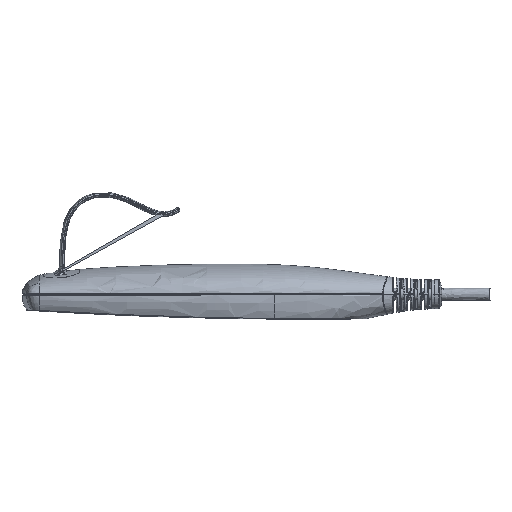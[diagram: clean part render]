
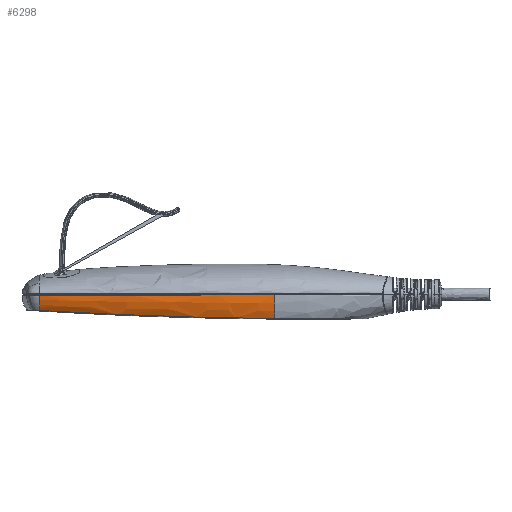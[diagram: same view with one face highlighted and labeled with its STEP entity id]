
A CAD part, left-side view. The second image highlights one B-rep face of the part: STEP entity #6298.
In plain terms, the highlighted free-form (B-spline) face has degree [3, 3] with [15, 4] control points.
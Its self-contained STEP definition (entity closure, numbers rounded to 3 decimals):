
#90=B_SPLINE_SURFACE_WITH_KNOTS('',3,3,((#52498,#52499,#52500,#52501),(#52502,
#52503,#52504,#52505),(#52506,#52507,#52508,#52509),(#52510,#52511,#52512,
#52513),(#52514,#52515,#52516,#52517),(#52518,#52519,#52520,#52521),(#52522,
#52523,#52524,#52525),(#52526,#52527,#52528,#52529),(#52530,#52531,#52532,
#52533),(#52534,#52535,#52536,#52537),(#52538,#52539,#52540,#52541),(#52542,
#52543,#52544,#52545),(#52546,#52547,#52548,#52549),(#52550,#52551,#52552,
#52553),(#52554,#52555,#52556,#52557)),.UNSPECIFIED.,.F.,.F.,.F.,(4,1,1,
1,1,2,1,1,1,2,4),(4,4),(0.,0.143,0.201,0.229,
0.374,0.56,0.711,0.747,
0.807,0.934,1.),(0.036,0.982),
 .UNSPECIFIED.);
#6298=ADVANCED_FACE('',(#6781),#90,.T.);
#6781=FACE_OUTER_BOUND('',#7271,.T.);
#7271=EDGE_LOOP('',(#8152,#8153,#8154,#8155));
#8152=ORIENTED_EDGE('',*,*,#13668,.T.);
#8153=ORIENTED_EDGE('',*,*,#13669,.T.);
#8154=ORIENTED_EDGE('',*,*,#13670,.T.);
#8155=ORIENTED_EDGE('',*,*,#13671,.T.);
#9531=PCURVE('',#90,#10910);
#9532=PCURVE('',#90,#10911);
#9533=PCURVE('',#90,#10912);
#9534=PCURVE('',#90,#10913);
#10910=DEFINITIONAL_REPRESENTATION('',(#15395),#97672);
#10911=DEFINITIONAL_REPRESENTATION('',(#15397),#97672);
#10912=DEFINITIONAL_REPRESENTATION('',(#15399),#97672);
#10913=DEFINITIONAL_REPRESENTATION('',(#15401),#97672);
#12289=SURFACE_CURVE('',#15394,(#9531),.PCURVE_S1.);
#12290=SURFACE_CURVE('',#15396,(#9532),.PCURVE_S1.);
#12291=SURFACE_CURVE('',#15398,(#9533),.PCURVE_S1.);
#12292=SURFACE_CURVE('',#15400,(#9534),.PCURVE_S1.);
#13668=EDGE_CURVE('',#17203,#17206,#12289,.T.);
#13669=EDGE_CURVE('',#17206,#17205,#12290,.T.);
#13670=EDGE_CURVE('',#17205,#17204,#12291,.T.);
#13671=EDGE_CURVE('',#17204,#17203,#12292,.T.);
#15394=B_SPLINE_CURVE_WITH_KNOTS('',3,(#52562,#52563,#52564,#52565,#52566,
#52567),.UNSPECIFIED.,.F.,.F.,(4,2,4),(0.,0.5,1.),
 .UNSPECIFIED.);
#15395=B_SPLINE_CURVE_WITH_KNOTS('',2,(#52568,#52569,#52570,#52571,#52572),
 .UNSPECIFIED.,.F.,.F.,(3,2,3),(0.,0.5,1.),.UNSPECIFIED.);
#15396=B_SPLINE_CURVE_WITH_KNOTS('',3,(#52573,#52574,#52575,#52576),
 .UNSPECIFIED.,.F.,.F.,(4,4),(1.,2.),.UNSPECIFIED.);
#15397=B_SPLINE_CURVE_WITH_KNOTS('',2,(#52577,#52578,#52579),
 .UNSPECIFIED.,.F.,.F.,(3,3),(1.,2.),.UNSPECIFIED.);
#15398=B_SPLINE_CURVE_WITH_KNOTS('',3,(#52580,#52581,#52582,#52583,#52584,
#52585,#52586,#52587),.UNSPECIFIED.,.F.,.F.,(4,2,2,4),(2.,2.496,
2.75,3.),.UNSPECIFIED.);
#15399=B_SPLINE_CURVE_WITH_KNOTS('',2,(#52588,#52589,#52590,#52591,#52592,
#52593,#52594,#52595,#52596,#52597,#52598),.UNSPECIFIED.,.F.,.F.,(3,2,2,
2,2,3),(2.,2.125,2.25,2.5,2.75,3.),.UNSPECIFIED.);
#15400=B_SPLINE_CURVE_WITH_KNOTS('',3,(#52599,#52600,#52601,#52602),
 .UNSPECIFIED.,.F.,.F.,(4,4),(3.,4.),.UNSPECIFIED.);
#15401=B_SPLINE_CURVE_WITH_KNOTS('',2,(#52603,#52604,#52605),
 .UNSPECIFIED.,.F.,.F.,(3,3),(3.,4.),.UNSPECIFIED.);
#17203=VERTEX_POINT('',#52558);
#17204=VERTEX_POINT('',#52559);
#17205=VERTEX_POINT('',#52560);
#17206=VERTEX_POINT('',#52561);
#52498=CARTESIAN_POINT('',(-56.047,115.378,-6.776));
#52499=CARTESIAN_POINT('',(-57.314,115.378,-4.791));
#52500=CARTESIAN_POINT('',(-58.,115.378,-2.489));
#52501=CARTESIAN_POINT('',(-58.025,115.378,-0.133));
#52502=CARTESIAN_POINT('',(-56.505,110.746,-7.05));
#52503=CARTESIAN_POINT('',(-57.749,110.75,-4.973));
#52504=CARTESIAN_POINT('',(-58.409,110.755,-2.582));
#52505=CARTESIAN_POINT('',(-58.408,110.759,-0.138));
#52506=CARTESIAN_POINT('',(-57.051,104.256,-7.41));
#52507=CARTESIAN_POINT('',(-58.278,104.264,-5.211));
#52508=CARTESIAN_POINT('',(-58.918,104.273,-2.704));
#52509=CARTESIAN_POINT('',(-58.895,104.281,-0.144));
#52510=CARTESIAN_POINT('',(-57.531,96.833,-7.783));
#52511=CARTESIAN_POINT('',(-58.756,96.844,-5.457));
#52512=CARTESIAN_POINT('',(-59.39,96.856,-2.83));
#52513=CARTESIAN_POINT('',(-59.359,96.868,-0.151));
#52514=CARTESIAN_POINT('',(-57.953,89.37,-8.141));
#52515=CARTESIAN_POINT('',(-59.181,89.387,-5.694));
#52516=CARTESIAN_POINT('',(-59.814,89.403,-2.951));
#52517=CARTESIAN_POINT('',(-59.782,89.42,-0.157));
#52518=CARTESIAN_POINT('',(-58.423,77.704,-8.649));
#52519=CARTESIAN_POINT('',(-59.671,77.73,-6.028));
#52520=CARTESIAN_POINT('',(-60.318,77.756,-3.122));
#52521=CARTESIAN_POINT('',(-60.297,77.783,-0.166));
#52522=CARTESIAN_POINT('',(-58.523,66.951,-9.023));
#52523=CARTESIAN_POINT('',(-59.798,66.985,-6.274));
#52524=CARTESIAN_POINT('',(-60.466,67.018,-3.247));
#52525=CARTESIAN_POINT('',(-60.465,67.052,-0.173));
#52526=CARTESIAN_POINT('',(-58.378,55.986,-9.352));
#52527=CARTESIAN_POINT('',(-59.68,56.026,-6.488));
#52528=CARTESIAN_POINT('',(-60.369,56.065,-3.356));
#52529=CARTESIAN_POINT('',(-60.387,56.105,-0.179));
#52530=CARTESIAN_POINT('',(-58.19,49.904,-9.51));
#52531=CARTESIAN_POINT('',(-59.506,49.949,-6.591));
#52532=CARTESIAN_POINT('',(-60.205,49.994,-3.408));
#52533=CARTESIAN_POINT('',(-60.233,50.038,-0.182));
#52534=CARTESIAN_POINT('',(-57.709,41.881,-9.679));
#52535=CARTESIAN_POINT('',(-59.039,41.924,-6.7));
#52536=CARTESIAN_POINT('',(-59.747,41.967,-3.464));
#52537=CARTESIAN_POINT('',(-59.784,42.01,-0.185));
#52538=CARTESIAN_POINT('',(-57.164,34.651,-9.813));
#52539=CARTESIAN_POINT('',(-58.501,34.688,-6.786));
#52540=CARTESIAN_POINT('',(-59.213,34.725,-3.508));
#52541=CARTESIAN_POINT('',(-59.253,34.761,-0.187));
#52542=CARTESIAN_POINT('',(-56.492,28.617,-9.896));
#52543=CARTESIAN_POINT('',(-57.83,28.641,-6.838));
#52544=CARTESIAN_POINT('',(-58.541,28.666,-3.534));
#52545=CARTESIAN_POINT('',(-58.578,28.691,-0.188));
#52546=CARTESIAN_POINT('',(-55.598,22.412,-9.961));
#52547=CARTESIAN_POINT('',(-56.935,22.422,-6.878));
#52548=CARTESIAN_POINT('',(-57.64,22.432,-3.554));
#52549=CARTESIAN_POINT('',(-57.671,22.441,-0.189));
#52550=CARTESIAN_POINT('',(-55.256,20.284,-9.98));
#52551=CARTESIAN_POINT('',(-56.591,20.289,-6.889));
#52552=CARTESIAN_POINT('',(-57.294,20.295,-3.559));
#52553=CARTESIAN_POINT('',(-57.322,20.3,-0.19));
#52554=CARTESIAN_POINT('',(-54.868,18.163,-9.995));
#52555=CARTESIAN_POINT('',(-56.203,18.163,-6.898));
#52556=CARTESIAN_POINT('',(-56.904,18.163,-3.564));
#52557=CARTESIAN_POINT('',(-56.929,18.163,-0.19));
#52558=CARTESIAN_POINT('',(-56.929,18.163,-0.25));
#52559=CARTESIAN_POINT('',(-54.892,18.163,-9.94));
#52560=CARTESIAN_POINT('',(-56.117,115.378,-6.665));
#52561=CARTESIAN_POINT('',(-58.022,115.378,-0.329));
#52562=CARTESIAN_POINT('',(-56.929,18.163,-0.25));
#52563=CARTESIAN_POINT('',(-59.813,33.861,-0.263));
#52564=CARTESIAN_POINT('',(-60.53,51.003,-0.277));
#52565=CARTESIAN_POINT('',(-60.313,82.763,-0.302));
#52566=CARTESIAN_POINT('',(-59.341,99.551,-0.316));
#52567=CARTESIAN_POINT('',(-58.022,115.378,-0.329));
#52568=CARTESIAN_POINT('',(1.,0.977));
#52569=CARTESIAN_POINT('',(0.719,0.974));
#52570=CARTESIAN_POINT('',(0.502,0.97));
#52571=CARTESIAN_POINT('',(0.198,0.965));
#52572=CARTESIAN_POINT('',(0.,0.956));
#52573=CARTESIAN_POINT('',(-58.022,115.378,-0.329));
#52574=CARTESIAN_POINT('',(-57.963,115.378,-2.573));
#52575=CARTESIAN_POINT('',(-57.305,115.378,-4.761));
#52576=CARTESIAN_POINT('',(-56.117,115.378,-6.665));
#52577=CARTESIAN_POINT('',(0.,0.956));
#52578=CARTESIAN_POINT('',(0.,0.505));
#52579=CARTESIAN_POINT('',(0.,0.053));
#52580=CARTESIAN_POINT('',(-56.117,115.378,-6.665));
#52581=CARTESIAN_POINT('',(-57.666,99.576,-7.596));
#52582=CARTESIAN_POINT('',(-58.511,82.659,-8.399));
#52583=CARTESIAN_POINT('',(-58.518,58.622,-9.216));
#52584=CARTESIAN_POINT('',(-58.302,50.501,-9.439));
#52585=CARTESIAN_POINT('',(-57.221,34.371,-9.77));
#52586=CARTESIAN_POINT('',(-56.337,26.065,-9.884));
#52587=CARTESIAN_POINT('',(-54.892,18.163,-9.94));
#52588=CARTESIAN_POINT('',(0.,0.053));
#52589=CARTESIAN_POINT('',(0.053,0.053));
#52590=CARTESIAN_POINT('',(0.125,0.051));
#52591=CARTESIAN_POINT('',(0.15,0.051));
#52592=CARTESIAN_POINT('',(0.25,0.049));
#52593=CARTESIAN_POINT('',(0.395,0.047));
#52594=CARTESIAN_POINT('',(0.5,0.045));
#52595=CARTESIAN_POINT('',(0.63,0.043));
#52596=CARTESIAN_POINT('',(0.75,0.042));
#52597=CARTESIAN_POINT('',(0.862,0.042));
#52598=CARTESIAN_POINT('',(1.,0.041));
#52599=CARTESIAN_POINT('',(-54.892,18.163,-9.94));
#52600=CARTESIAN_POINT('',(-56.203,18.163,-6.876));
#52601=CARTESIAN_POINT('',(-56.896,18.163,-3.583));
#52602=CARTESIAN_POINT('',(-56.929,18.163,-0.25));
#52603=CARTESIAN_POINT('',(1.,0.041));
#52604=CARTESIAN_POINT('',(1.,0.509));
#52605=CARTESIAN_POINT('',(1.,0.977));
#97672=(
GEOMETRIC_REPRESENTATION_CONTEXT(2)
PARAMETRIC_REPRESENTATION_CONTEXT()
REPRESENTATION_CONTEXT('pspace','')
);
